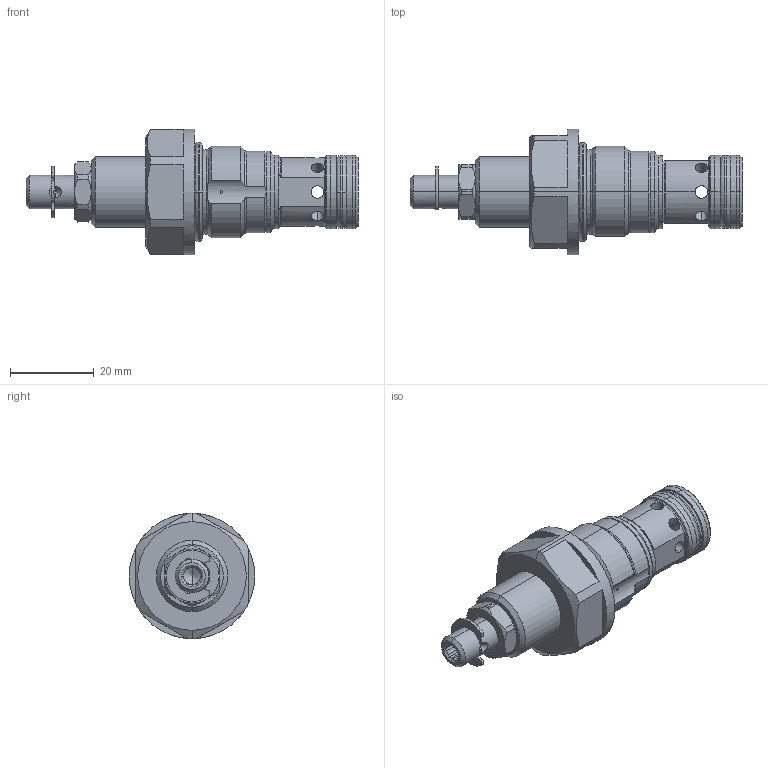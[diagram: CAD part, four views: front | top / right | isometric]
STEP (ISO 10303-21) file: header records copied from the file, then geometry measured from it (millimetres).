
FILE_DESCRIPTION (( 'STEP AP214' ), '1' );
FILE_NAME ('BCSPM22.STEP', '2017-03-23T06:49:48', ( '' ), ( '' ), 'SwSTEP 2.0', 'SolidWorks 2016', '' );
FILE_SCHEMA (( 'AUTOMOTIVE_DESIGN' ));
Length unit declared in the file: millimetre
Products named in the file (1): BCSPM22
Bounding box: 79.4 x 30 x 30 mm (x, y, z)
Volume: 22137.8 mm3; surface area: 7864.9 mm2
Topology: 6 solids, 6 shells, 250 faces, 616 edges, 377 vertices
Faces by surface type: cylinder 92, plane 69, cone 47, torus 26, bspline 16
Entity records: 10994 total; most frequent: CARTESIAN_POINT 2322, DIRECTION 1263, ORIENTED_EDGE 1224, EDGE_CURVE 612, AXIS2_PLACEMENT_3D 534, VERTEX_POINT 377, CIRCLE 299, EDGE_LOOP 275
